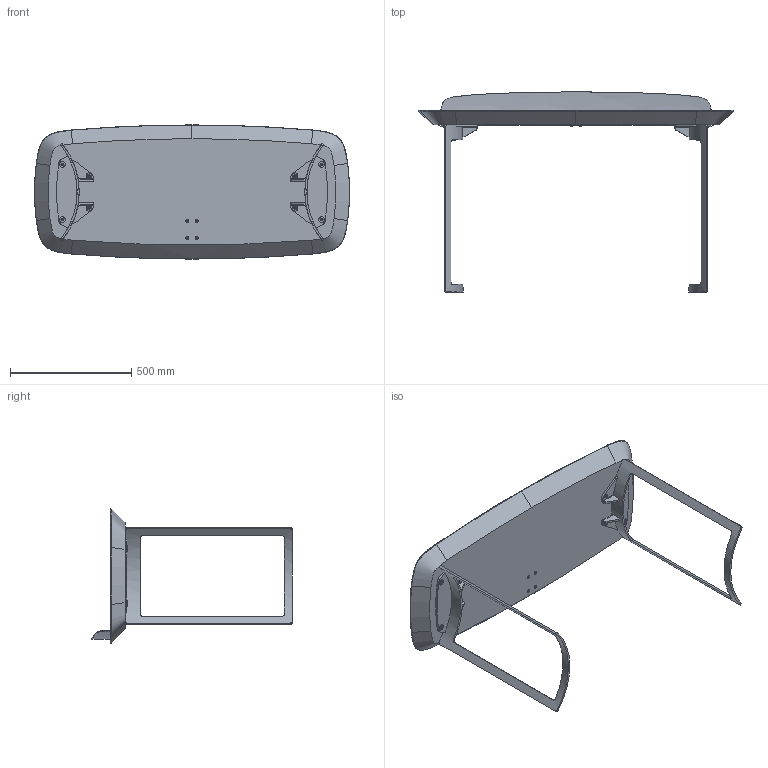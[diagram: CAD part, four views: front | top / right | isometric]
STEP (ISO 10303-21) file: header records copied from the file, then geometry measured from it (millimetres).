
FILE_DESCRIPTION (( 'STEP AP203' ), '1' );
FILE_NAME ('Assieme Scrivania ICON.STEP', '2024-09-09T06:15:31', ( '' ), ( '' ), 'SwSTEP 2.0', 'SolidWorks 2022', '' );
FILE_SCHEMA (( 'CONFIG_CONTROL_DESIGN' ));
Length unit declared in the file: millimetre
Products named in the file (10): SCRC000V05-00-LYRA_ICON CORNICE TOP VERNICIATA V05 BRONZO GOFFRATO.SLDDRW_piegata; K82-00-PIANO SOLO CERAMICA X ICON DESK; M6xXXmm_M6x12; rondella M6_6X12; Assieme Scrivania ICON; rondella M8X24; SCR000000G69-02-GAMBA H.69cm PER ICON E LIRA_GAMBA 69; SCR000000GXX-00-PIASTRA DI FISSAGGIO SUPERIORE; SCR000000GXX-00-SCRIVANIE GAMBA_GAMBA H.69cm PER  ICON; ICNS200SL-00-ICON PIANO C INCASSO CERAMICA IMBALLATO_default
Assembly tree (23 placements, depth 3):
  Assieme Scrivania ICON
    SCR000000G69-02-GAMBA H.69cm PER ICON E LIRA_GAMBA 69  x2
      SCR000000GXX-00-SCRIVANIE GAMBA_GAMBA H.69cm PER  ICON
      SCR000000GXX-00-PIASTRA DI FISSAGGIO SUPERIORE
    rondella M8X24  x8
    M6xXXmm_M6x12  x4
    rondella M6_6X12  x4
    SCRC000V05-00-LYRA_ICON CORNICE TOP VERNICIATA V05 BRONZO GOFFRATO.SLDDRW_piegata
    ICNS200SL-00-ICON PIANO C INCASSO CERAMICA IMBALLATO_default
    K82-00-PIANO SOLO CERAMICA X ICON DESK
Bounding box: 1300.29 x 826.94 x 554 mm (x, y, z)
Volume: 36870550.7 mm3; surface area: 3021302.7 mm2
Topology: 23 solids, 23 shells, 682 faces, 1629 edges, 979 vertices
Faces by surface type: cylinder 246, plane 206, torus 122, cone 77, bspline 31
Entity records: 15570 total; most frequent: CARTESIAN_POINT 6437, ORIENTED_EDGE 1646, DIRECTION 1552, EDGE_CURVE 823, AXIS2_PLACEMENT_3D 628, VERTEX_POINT 515, EDGE_LOOP 370, FACE_OUTER_BOUND 339
